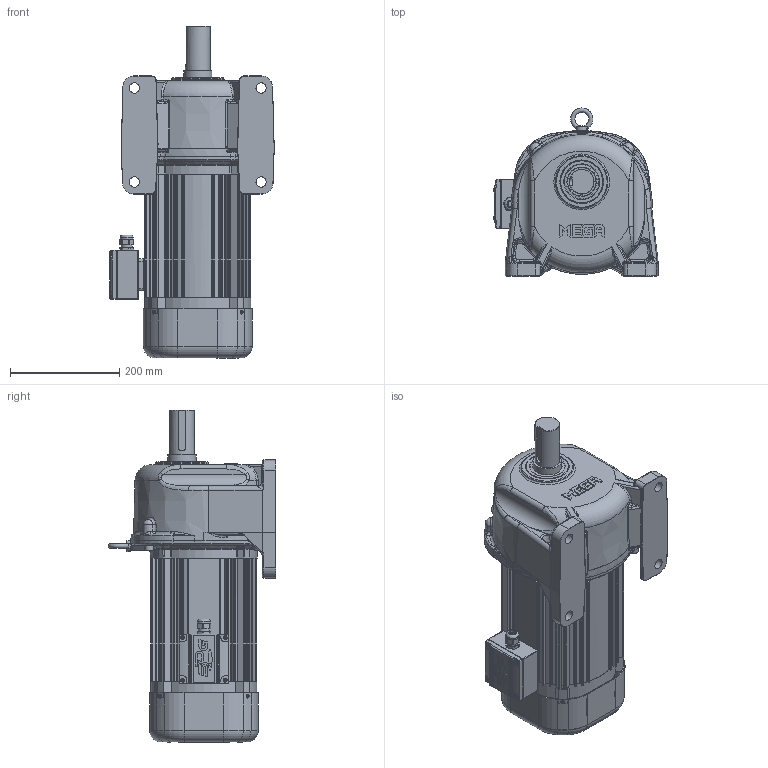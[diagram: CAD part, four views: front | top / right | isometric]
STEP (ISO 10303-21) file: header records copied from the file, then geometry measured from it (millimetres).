
FILE_DESCRIPTION(/* description */ (''),/* implementation_level */ '2;1');
FILE_NAME(/* name */ 'Z:\동력 3D 파일\PML172-(5~100)-PC(D)220[ ]L_(3D).stp',/* time_stamp */ '2021-08-30T14:28:30+09:00',/* author */ ('jaebok'),/* organization */ (''),/* preprocessor_version */ 'ST-DEVELOPER v18.1',/* originating_system */ 'Autodesk Inventor 2022',/* authorisation */ '');
FILE_SCHEMA (('AUTOMOTIVE_DESIGN { 1 0 10303 214 3 1 1 }'));
Length unit declared in the file: millimetre
Products named in the file (1): 부품5
Bounding box: 301 x 307.44 x 607.6 mm (x, y, z)
Volume: 6942102.9 mm3; surface area: 1398269.8 mm2
Topology: 2 solids, 32 shells, 3113 faces, 7936 edges, 4869 vertices
Faces by surface type: plane 1038, cylinder 898, bspline 684, torus 253, cone 187, sphere 53
Full cylindrical faces by diameter (mm): 3.242 x4, 3.25 x1, 3.6 x4, 4 x21, 5 x13, 6 x5, 6.8 x4, 7 x8, 8 x9, 8.4 x5, 8.8 x1, 9 x4, 10 x11, 11 x4, 12 x1, 12.5 x1, 15 x1, 16 x4, 19 x4, 20 x2, 21 x1, 23.5 x1, 23.6 x1, 25 x2, 36 x2, 45 x1, 48 x1, 50 x1, 52 x4, 55 x1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
Entity records: 120188 total; most frequent: CARTESIAN_POINT 45248, ORIENTED_EDGE 15660, DIRECTION 14102, EDGE_CURVE 7830, AXIS2_PLACEMENT_3D 5619, VERTEX_POINT 4869, EDGE_LOOP 3328, FACE_OUTER_BOUND 3113
